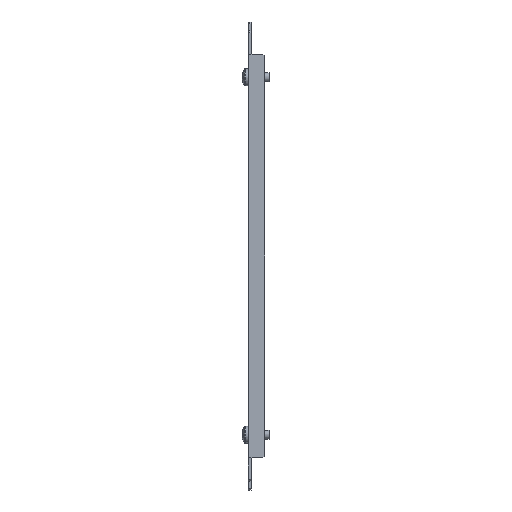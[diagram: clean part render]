
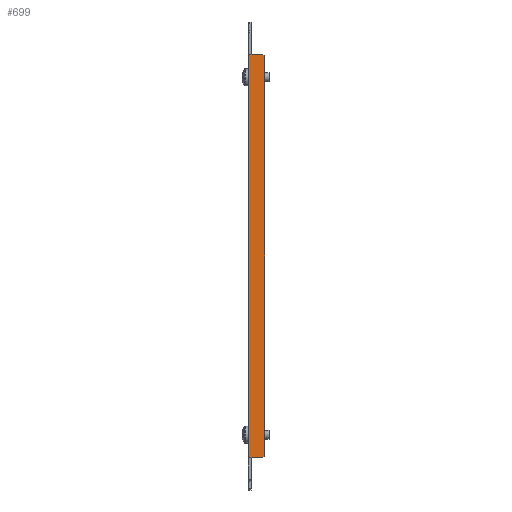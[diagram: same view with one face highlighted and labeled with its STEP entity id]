
A CAD part, left-side view. The second image highlights one B-rep face of the part: STEP entity #699.
In plain terms, the highlighted planar face has unit normal (-1, 0, 0) as drawn and (1, 0, 0) by its records, which use the part's own axes.
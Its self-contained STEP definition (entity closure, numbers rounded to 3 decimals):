
#12 = DIRECTION ( 'NONE',  ( 0., 0., 1. ) ) ;
#21 = CARTESIAN_POINT ( 'NONE',  ( 134., -113., -2.1 ) ) ;
#187 = CARTESIAN_POINT ( 'NONE',  ( 134., 113., 0. ) ) ;
#203 = CARTESIAN_POINT ( 'NONE',  ( 134., -113., 0. ) ) ;
#233 = VECTOR ( 'NONE', #1227, 1000. ) ;
#293 = VECTOR ( 'NONE', #2532, 1000. ) ;
#532 = DIRECTION ( 'NONE',  ( 0., 0.707, -0.707 ) ) ;
#552 = LINE ( 'NONE', #755, #233 ) ;
#699 = ADVANCED_FACE ( 'NONE', ( #1034 ), #1947, .F. ) ;
#724 = CARTESIAN_POINT ( 'NONE',  ( 134., -113., 0. ) ) ;
#748 = ORIENTED_EDGE ( 'NONE', *, *, #1344, .F. ) ;
#755 = CARTESIAN_POINT ( 'NONE',  ( 134., 113., -8. ) ) ;
#799 = VERTEX_POINT ( 'NONE', #1303 ) ;
#822 = LINE ( 'NONE', #2729, #1339 ) ;
#848 = VERTEX_POINT ( 'NONE', #1122 ) ;
#874 = DIRECTION ( 'NONE',  ( 0., 0., -1. ) ) ;
#943 = ORIENTED_EDGE ( 'NONE', *, *, #1067, .T. ) ;
#980 = LINE ( 'NONE', #1716, #2062 ) ;
#1034 = FACE_OUTER_BOUND ( 'NONE', #1521, .T. ) ;
#1036 = ORIENTED_EDGE ( 'NONE', *, *, #1308, .T. ) ;
#1058 = ORIENTED_EDGE ( 'NONE', *, *, #1237, .T. ) ;
#1067 = EDGE_CURVE ( 'NONE', #799, #1486, #552, .T. ) ;
#1103 = DIRECTION ( 'NONE',  ( 0., 0., 1. ) ) ;
#1118 = DIRECTION ( 'NONE',  ( 0., 1., 0. ) ) ;
#1122 = CARTESIAN_POINT ( 'NONE',  ( 134., 113., -2.1 ) ) ;
#1131 = VERTEX_POINT ( 'NONE', #1694 ) ;
#1133 = LINE ( 'NONE', #203, #2058 ) ;
#1172 = ORIENTED_EDGE ( 'NONE', *, *, #1350, .T. ) ;
#1227 = DIRECTION ( 'NONE',  ( 0., 0.707, 0.707 ) ) ;
#1237 = EDGE_CURVE ( 'NONE', #1785, #1266, #1133, .T. ) ;
#1266 = VERTEX_POINT ( 'NONE', #2455 ) ;
#1303 = CARTESIAN_POINT ( 'NONE',  ( 134., 112., -9. ) ) ;
#1308 = EDGE_CURVE ( 'NONE', #1486, #848, #2233, .T. ) ;
#1322 = ORIENTED_EDGE ( 'NONE', *, *, #2186, .T. ) ;
#1339 = VECTOR ( 'NONE', #1118, 1000. ) ;
#1344 = EDGE_CURVE ( 'NONE', #1785, #2518, #2347, .T. ) ;
#1350 = EDGE_CURVE ( 'NONE', #848, #2772, #2089, .T. ) ;
#1433 = CARTESIAN_POINT ( 'NONE',  ( 134., 0., 0. ) ) ;
#1486 = VERTEX_POINT ( 'NONE', #1691 ) ;
#1498 = CARTESIAN_POINT ( 'NONE',  ( 134., 0., 0. ) ) ;
#1521 = EDGE_LOOP ( 'NONE', ( #1322, #943, #1036, #1172, #1526, #748, #1058, #2898 ) ) ;
#1526 = ORIENTED_EDGE ( 'NONE', *, *, #2477, .T. ) ;
#1531 = VECTOR ( 'NONE', #12, 1000. ) ;
#1625 = CARTESIAN_POINT ( 'NONE',  ( 134., 113., 0. ) ) ;
#1691 = CARTESIAN_POINT ( 'NONE',  ( 134., 113., -8. ) ) ;
#1694 = CARTESIAN_POINT ( 'NONE',  ( 134., -112., -9. ) ) ;
#1716 = CARTESIAN_POINT ( 'NONE',  ( 134., -112., -9. ) ) ;
#1785 = VERTEX_POINT ( 'NONE', #21 ) ;
#1947 = PLANE ( 'NONE',  #2783 ) ;
#1950 = EDGE_CURVE ( 'NONE', #1266, #1131, #980, .T. ) ;
#2058 = VECTOR ( 'NONE', #874, 1000. ) ;
#2062 = VECTOR ( 'NONE', #532, 1000. ) ;
#2089 = LINE ( 'NONE', #2749, #293 ) ;
#2186 = EDGE_CURVE ( 'NONE', #1131, #799, #822, .T. ) ;
#2196 = DIRECTION ( 'NONE',  ( 0., 0., 1. ) ) ;
#2233 = LINE ( 'NONE', #187, #2736 ) ;
#2304 = VECTOR ( 'NONE', #2349, 1000. ) ;
#2347 = LINE ( 'NONE', #724, #1531 ) ;
#2349 = DIRECTION ( 'NONE',  ( 0., -1., 0. ) ) ;
#2365 = CARTESIAN_POINT ( 'NONE',  ( 134., -113., 0. ) ) ;
#2416 = DIRECTION ( 'NONE',  ( -1., 0., 0. ) ) ;
#2455 = CARTESIAN_POINT ( 'NONE',  ( 134., -113., -8. ) ) ;
#2477 = EDGE_CURVE ( 'NONE', #2772, #2518, #2580, .T. ) ;
#2518 = VERTEX_POINT ( 'NONE', #2365 ) ;
#2532 = DIRECTION ( 'NONE',  ( 0., 0., 1. ) ) ;
#2580 = LINE ( 'NONE', #1433, #2304 ) ;
#2729 = CARTESIAN_POINT ( 'NONE',  ( 134., 0., -9. ) ) ;
#2736 = VECTOR ( 'NONE', #1103, 1000. ) ;
#2749 = CARTESIAN_POINT ( 'NONE',  ( 134., 113., -2.1 ) ) ;
#2772 = VERTEX_POINT ( 'NONE', #1625 ) ;
#2783 = AXIS2_PLACEMENT_3D ( 'NONE', #1498, #2416, #2196 ) ;
#2898 = ORIENTED_EDGE ( 'NONE', *, *, #1950, .T. ) ;
